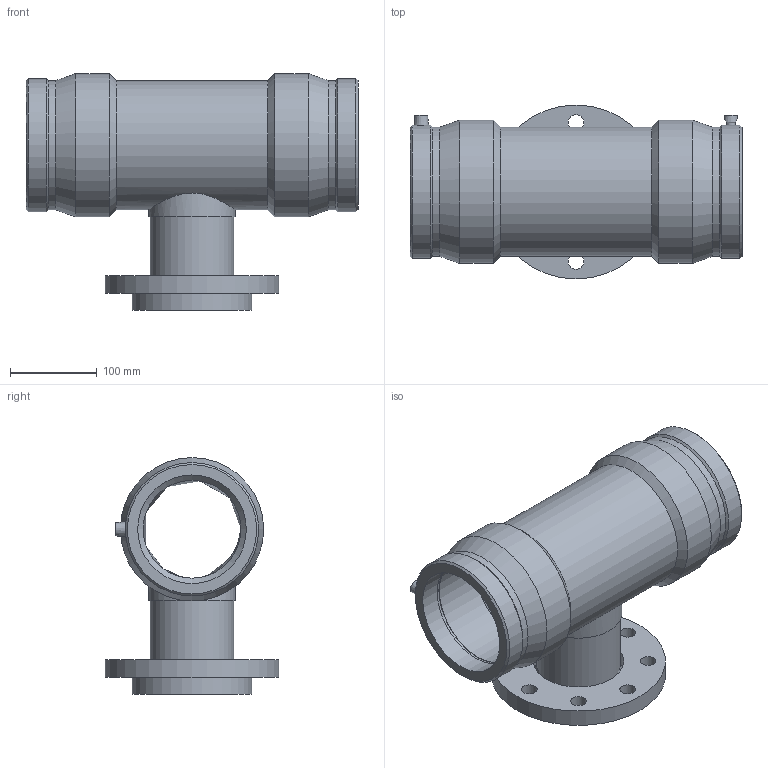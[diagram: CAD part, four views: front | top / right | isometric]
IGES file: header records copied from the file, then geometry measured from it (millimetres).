
Global section: file name: 499404125080.ipt; native system: Autodesk Inventor 2015; preprocessor: unknown; author: KIM; date: 20171106.094450; units: millimetre
Bounding box: 382 x 200 x 272.5 mm (x, y, z)
Volume: 3663345.5 mm3; surface area: 485208.5 mm2
Topology: 1 solids, 2 shells, 60 faces, 136 edges, 90 vertices
Faces by surface type: revolution 21, plane 14, cylinder 13, cone 11, bspline 1
Full cylindrical faces by diameter (mm): 4 x2, 96 x1, 100 x1, 138 x1, 148.5 x1, 148.846 x2, 153.45 x2, 165 x2, 200 x1
